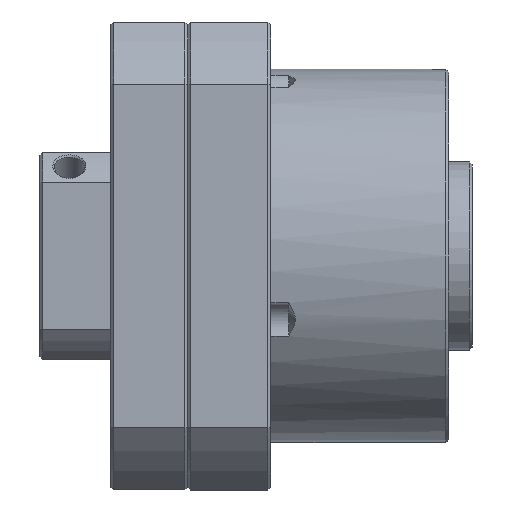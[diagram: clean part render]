
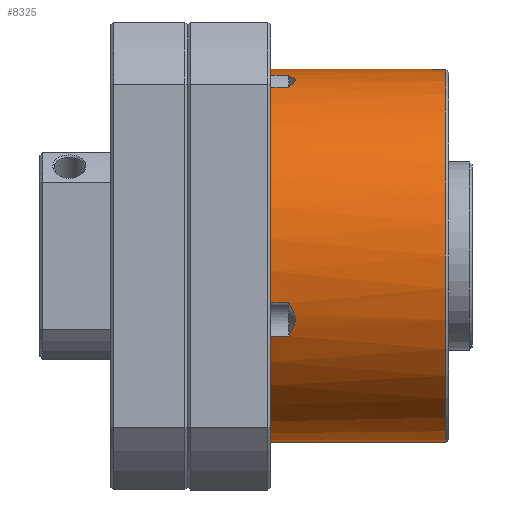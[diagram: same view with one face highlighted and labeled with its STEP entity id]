
A CAD part, front view. The second image highlights one B-rep face of the part: STEP entity #8325.
In plain terms, the highlighted cylindrical face has radius 31.5 mm (diameter 63 mm), a partial arc.
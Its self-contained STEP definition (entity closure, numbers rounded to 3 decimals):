
#30 = ORIENTED_EDGE ( 'NONE', *, *, #9270, .T. ) ;
#183 = VERTEX_POINT ( 'NONE', #3146 ) ;
#188 = VECTOR ( 'NONE', #1772, 1000. ) ;
#192 = CARTESIAN_POINT ( 'NONE',  ( 14., 0., -31.5 ) ) ;
#217 = CARTESIAN_POINT ( 'NONE',  ( 18.053, -29.363, -11.406 ) ) ;
#257 = CARTESIAN_POINT ( 'NONE',  ( 18.141, -29.551, -10.909 ) ) ;
#464 = AXIS2_PLACEMENT_3D ( 'NONE', #9143, #5583, #5490 ) ;
#659 = ORIENTED_EDGE ( 'NONE', *, *, #6486, .T. ) ;
#689 = CARTESIAN_POINT ( 'NONE',  ( 8.5, -7.927, 30.486 ) ) ;
#753 = CARTESIAN_POINT ( 'NONE',  ( 17.939, -11.766, 29.221 ) ) ;
#809 = CARTESIAN_POINT ( 'NONE',  ( 17.261, -8.385, 30.367 ) ) ;
#947 = AXIS2_PLACEMENT_3D ( 'NONE', #2509, #4172, #10352 ) ;
#1015 = LINE ( 'NONE', #5260, #8139 ) ;
#1028 = VECTOR ( 'NONE', #6793, 1000. ) ;
#1081 = CARTESIAN_POINT ( 'NONE',  ( 18.129, -29.504, -11.034 ) ) ;
#1099 = ORIENTED_EDGE ( 'NONE', *, *, #7142, .T. ) ;
#1175 = ORIENTED_EDGE ( 'NONE', *, *, #2589, .T. ) ;
#1199 = CARTESIAN_POINT ( 'NONE',  ( 18.095, -10.276, 29.778 ) ) ;
#1232 = VERTEX_POINT ( 'NONE', #7644 ) ;
#1317 = CARTESIAN_POINT ( 'NONE',  ( 18.129, -11.034, 29.504 ) ) ;
#1360 = VERTEX_POINT ( 'NONE', #9694 ) ;
#1378 = ORIENTED_EDGE ( 'NONE', *, *, #3060, .T. ) ;
#1490 = CIRCLE ( 'NONE', #464, 31.5 ) ;
#1772 = DIRECTION ( 'NONE',  ( -1., 0., 0. ) ) ;
#1775 = VECTOR ( 'NONE', #3586, 1000. ) ;
#1788 = DIRECTION ( 'NONE',  ( -1., 0., 0. ) ) ;
#1899 = ORIENTED_EDGE ( 'NONE', *, *, #9456, .T. ) ;
#2165 = CARTESIAN_POINT ( 'NONE',  ( 17., -7.927, 30.486 ) ) ;
#2208 = LINE ( 'NONE', #11154, #188 ) ;
#2285 = EDGE_CURVE ( 'NONE', #1232, #5187, #1015, .T. ) ;
#2303 = DIRECTION ( 'NONE',  ( -1., 0., 0. ) ) ;
#2312 = CARTESIAN_POINT ( 'NONE',  ( 18.143, -10.532, 29.688 ) ) ;
#2338 = CIRCLE ( 'NONE', #5726, 31.5 ) ;
#2495 = CARTESIAN_POINT ( 'NONE',  ( 43.5, 0., 0. ) ) ;
#2509 = CARTESIAN_POINT ( 'NONE',  ( -94.469, 0., 0. ) ) ;
#2564 = CARTESIAN_POINT ( 'NONE',  ( 14., -13.524, 28.449 ) ) ;
#2589 = EDGE_CURVE ( 'NONE', #2746, #7928, #8996, .T. ) ;
#2746 = VERTEX_POINT ( 'NONE', #2165 ) ;
#2835 = VERTEX_POINT ( 'NONE', #6363 ) ;
#2896 = CARTESIAN_POINT ( 'NONE',  ( 17.839, -29.128, -11.995 ) ) ;
#2935 = CARTESIAN_POINT ( 'NONE',  ( 17.945, -29.942, -9.787 ) ) ;
#3060 = EDGE_CURVE ( 'NONE', #8174, #2746, #10550, .T. ) ;
#3146 = CARTESIAN_POINT ( 'NONE',  ( 43.5, 0., 31.5 ) ) ;
#3295 = FACE_OUTER_BOUND ( 'NONE', #3384, .T. ) ;
#3384 = EDGE_LOOP ( 'NONE', ( #3644, #1099, #3851, #9503, #1378, #1175, #659, #9271, #1899, #30, #4882, #5132 ) ) ;
#3402 = DIRECTION ( 'NONE',  ( 0., 0., 1. ) ) ;
#3485 = CARTESIAN_POINT ( 'NONE',  ( 14., -7.927, 30.486 ) ) ;
#3586 = DIRECTION ( 'NONE',  ( -1., 0., 0. ) ) ;
#3644 = ORIENTED_EDGE ( 'NONE', *, *, #10765, .F. ) ;
#3685 = CARTESIAN_POINT ( 'NONE',  ( -94.469, 0., -31.5 ) ) ;
#3728 = CARTESIAN_POINT ( 'NONE',  ( 18.095, -29.778, -10.276 ) ) ;
#3851 = ORIENTED_EDGE ( 'NONE', *, *, #8408, .T. ) ;
#4088 = CARTESIAN_POINT ( 'NONE',  ( 18.085, -11.283, 29.41 ) ) ;
#4100 = CARTESIAN_POINT ( 'NONE',  ( 17., -30.486, -7.927 ) ) ;
#4172 = DIRECTION ( 'NONE',  ( -1., 0., 0. ) ) ;
#4199 = CARTESIAN_POINT ( 'NONE',  ( 17.512, -12.668, 28.844 ) ) ;
#4210 = EDGE_CURVE ( 'NONE', #5056, #4713, #1490, .T. ) ;
#4461 = CIRCLE ( 'NONE', #6170, 31.5 ) ;
#4484 = EDGE_CURVE ( 'NONE', #11216, #5187, #4461, .T. ) ;
#4713 = VERTEX_POINT ( 'NONE', #2564 ) ;
#4809 = CIRCLE ( 'NONE', #9808, 31.5 ) ;
#4858 = CARTESIAN_POINT ( 'NONE',  ( 14., -30.486, -7.927 ) ) ;
#4860 = DIRECTION ( 'NONE',  ( -1., 0., 0. ) ) ;
#4882 = ORIENTED_EDGE ( 'NONE', *, *, #2285, .T. ) ;
#5056 = VERTEX_POINT ( 'NONE', #4858 ) ;
#5132 = ORIENTED_EDGE ( 'NONE', *, *, #4484, .F. ) ;
#5187 = VERTEX_POINT ( 'NONE', #5358 ) ;
#5227 = DIRECTION ( 'NONE',  ( 1., 0., 0. ) ) ;
#5260 = CARTESIAN_POINT ( 'NONE',  ( 8.5, -28.449, -13.524 ) ) ;
#5358 = CARTESIAN_POINT ( 'NONE',  ( 14., -28.449, -13.524 ) ) ;
#5490 = DIRECTION ( 'NONE',  ( 0., 0., 1. ) ) ;
#5496 = CARTESIAN_POINT ( 'NONE',  ( 17., -28.449, -13.524 ) ) ;
#5583 = DIRECTION ( 'NONE',  ( -1., 0., 0. ) ) ;
#5608 = CARTESIAN_POINT ( 'NONE',  ( 18.053, -11.406, 29.363 ) ) ;
#5726 = AXIS2_PLACEMENT_3D ( 'NONE', #8453, #2303, #7572 ) ;
#6170 = AXIS2_PLACEMENT_3D ( 'NONE', #7045, #6410, #6182 ) ;
#6182 = DIRECTION ( 'NONE',  ( 0., 0., 1. ) ) ;
#6295 = CARTESIAN_POINT ( 'NONE',  ( 17.259, -28.651, -13.1 ) ) ;
#6351 = CARTESIAN_POINT ( 'NONE',  ( 17., -13.524, 28.449 ) ) ;
#6363 = CARTESIAN_POINT ( 'NONE',  ( 43.5, 0., -31.5 ) ) ;
#6410 = DIRECTION ( 'NONE',  ( -1., 0., 0. ) ) ;
#6470 = VECTOR ( 'NONE', #5227, 1000. ) ;
#6486 = EDGE_CURVE ( 'NONE', #7928, #4713, #2208, .T. ) ;
#6564 = VECTOR ( 'NONE', #1788, 1000. ) ;
#6793 = DIRECTION ( 'NONE',  ( 1., 0., 0. ) ) ;
#6843 = CARTESIAN_POINT ( 'NONE',  ( 17.945, -9.787, 29.942 ) ) ;
#6877 = EDGE_CURVE ( 'NONE', #8174, #1360, #2338, .T. ) ;
#6984 = CARTESIAN_POINT ( 'NONE',  ( 17., -7.927, 30.486 ) ) ;
#7007 = CARTESIAN_POINT ( 'NONE',  ( 8.5, -30.486, -7.927 ) ) ;
#7045 = CARTESIAN_POINT ( 'NONE',  ( 14., 0., 0. ) ) ;
#7111 = CYLINDRICAL_SURFACE ( 'NONE', #947, 31.5 ) ;
#7142 = EDGE_CURVE ( 'NONE', #2835, #183, #4809, .T. ) ;
#7264 = CARTESIAN_POINT ( 'NONE',  ( 17., -13.524, 28.449 ) ) ;
#7302 = CARTESIAN_POINT ( 'NONE',  ( 17.259, -13.1, 28.651 ) ) ;
#7459 = CARTESIAN_POINT ( 'NONE',  ( 17., -30.486, -7.927 ) ) ;
#7572 = DIRECTION ( 'NONE',  ( 0., 0., 1. ) ) ;
#7644 = CARTESIAN_POINT ( 'NONE',  ( 17., -28.449, -13.524 ) ) ;
#7928 = VERTEX_POINT ( 'NONE', #6351 ) ;
#8076 = CARTESIAN_POINT ( 'NONE',  ( 17.261, -30.367, -8.385 ) ) ;
#8128 = CARTESIAN_POINT ( 'NONE',  ( 18.143, -29.688, -10.532 ) ) ;
#8139 = VECTOR ( 'NONE', #4860, 1000. ) ;
#8174 = VERTEX_POINT ( 'NONE', #3485 ) ;
#8213 = CARTESIAN_POINT ( 'NONE',  ( 17.839, -11.995, 29.128 ) ) ;
#8241 = CARTESIAN_POINT ( 'NONE',  ( 17.515, -30.238, -8.842 ) ) ;
#8325 = ADVANCED_FACE ( 'NONE', ( #3295 ), #7111, .T. ) ;
#8408 = EDGE_CURVE ( 'NONE', #183, #1360, #9152, .T. ) ;
#8453 = CARTESIAN_POINT ( 'NONE',  ( 14., 0., 0. ) ) ;
#8618 = DIRECTION ( 'NONE',  ( -1., 0., 0. ) ) ;
#8726 = VERTEX_POINT ( 'NONE', #7459 ) ;
#8746 = LINE ( 'NONE', #3685, #1775 ) ;
#8771 = LINE ( 'NONE', #7007, #6470 ) ;
#8942 = CARTESIAN_POINT ( 'NONE',  ( 17.939, -29.221, -11.766 ) ) ;
#8996 = B_SPLINE_CURVE_WITH_KNOTS ( 'NONE', 3,
 ( #6984, #809, #9458, #9314, #6843, #1199, #2312, #9180, #1317, #4088, #5608, #753, #8213, #4199, #7302, #7264 ),
 .UNSPECIFIED., .F., .F.,
 ( 4, 2, 2, 2, 2, 2, 2, 4 ),
 ( 0., 0.002, 0.002, 0.003, 0.004, 0.004, 0.005, 0.006 ),
 .UNSPECIFIED. ) ;
#9071 = B_SPLINE_CURVE_WITH_KNOTS ( 'NONE', 3,
 ( #4100, #8076, #8241, #10753, #2935, #3728, #8128, #257, #1081, #9663, #217, #8942, #2896, #9615, #6295, #5496 ),
 .UNSPECIFIED., .F., .F.,
 ( 4, 2, 2, 2, 2, 2, 2, 4 ),
 ( 0., 0.002, 0.002, 0.003, 0.004, 0.004, 0.005, 0.006 ),
 .UNSPECIFIED. ) ;
#9143 = CARTESIAN_POINT ( 'NONE',  ( 14., 0., 0. ) ) ;
#9152 = LINE ( 'NONE', #9541, #6564 ) ;
#9180 = CARTESIAN_POINT ( 'NONE',  ( 18.141, -10.909, 29.551 ) ) ;
#9270 = EDGE_CURVE ( 'NONE', #8726, #1232, #9071, .T. ) ;
#9271 = ORIENTED_EDGE ( 'NONE', *, *, #4210, .F. ) ;
#9314 = CARTESIAN_POINT ( 'NONE',  ( 17.845, -9.548, 30.019 ) ) ;
#9456 = EDGE_CURVE ( 'NONE', #5056, #8726, #8771, .T. ) ;
#9458 = CARTESIAN_POINT ( 'NONE',  ( 17.515, -8.842, 30.238 ) ) ;
#9503 = ORIENTED_EDGE ( 'NONE', *, *, #6877, .F. ) ;
#9541 = CARTESIAN_POINT ( 'NONE',  ( -94.469, 0., 31.5 ) ) ;
#9615 = CARTESIAN_POINT ( 'NONE',  ( 17.512, -28.844, -12.668 ) ) ;
#9663 = CARTESIAN_POINT ( 'NONE',  ( 18.085, -29.41, -11.283 ) ) ;
#9694 = CARTESIAN_POINT ( 'NONE',  ( 14., 0., 31.5 ) ) ;
#9808 = AXIS2_PLACEMENT_3D ( 'NONE', #2495, #8618, #3402 ) ;
#10352 = DIRECTION ( 'NONE',  ( 0., 0., 1. ) ) ;
#10550 = LINE ( 'NONE', #689, #1028 ) ;
#10753 = CARTESIAN_POINT ( 'NONE',  ( 17.845, -30.019, -9.548 ) ) ;
#10765 = EDGE_CURVE ( 'NONE', #2835, #11216, #8746, .T. ) ;
#11154 = CARTESIAN_POINT ( 'NONE',  ( 8.5, -13.524, 28.449 ) ) ;
#11216 = VERTEX_POINT ( 'NONE', #192 ) ;
